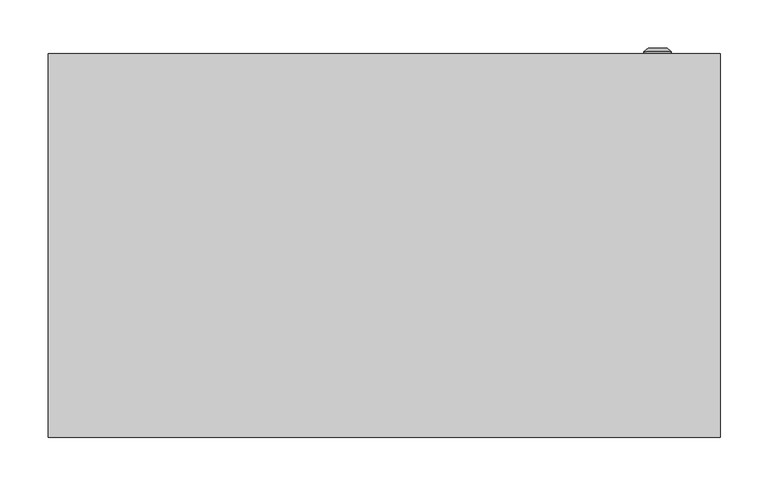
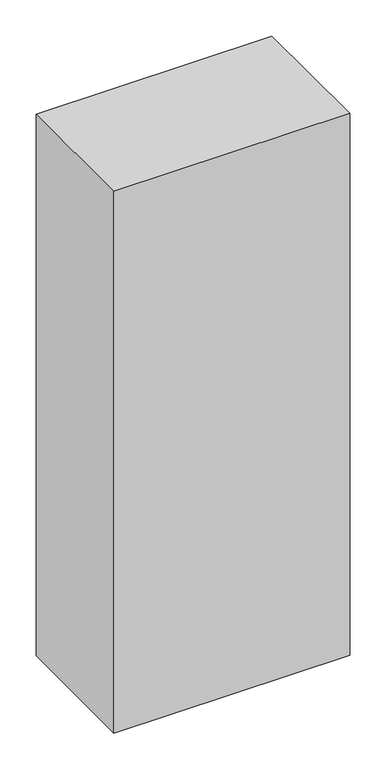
"""IFC4 building model written with IfcOpenShell, lengths in millimetres: proxy geometry, ШРС : ШРС-3_1700х700х400."""

import ifcopenshell
import ifcopenshell.guid

model = None  # the IFC model being written
_history = None  # IfcOwnerHistory: only IFC2X3 demands one
_inside = {}  # id of a spatial element -> (the spatial element, [elements in it])
_under = {}  # id of a project, library or spatial element -> (it, [spatial elements below it])
_declared = {}  # id of a project -> (the project, [libraries it declares])
_typed = {}  # id of a type object -> (the type object, [elements of that type])
_made_of = {}  # id of a material, layer set ... -> (it, [elements and type objects made of it])


def new_model(schema):
    """Start an empty IFC model of exactly this schema.

    Asked for "IFC4X3", IfcOpenShell would pick the latest addendum, in which some entities
    have other attributes; the version numbers below select the first issue.
    IFC2X3 requires an IfcOwnerHistory on every rooted entity: one is made here for all.
    """
    global model, _history
    if schema == "IFC4X3":
        model = ifcopenshell.file(schema_version=(4, 3, 0, 0))
    else:
        model = ifcopenshell.file(schema=schema)
    _inside.clear()
    _under.clear()
    _declared.clear()
    _typed.clear()
    _made_of.clear()
    _history = None
    if model.schema == "IFC2X3":
        org = make("IfcOrganization", Name="unknown")
        user = make(
            "IfcPersonAndOrganization",
            ThePerson=make("IfcPerson", FamilyName="unknown"),
            TheOrganization=org,
        )
        app = make(
            "IfcApplication",
            ApplicationDeveloper=org,
            Version="unknown",
            ApplicationFullName="unknown",
            ApplicationIdentifier="unknown",
        )
        _history = make(
            "IfcOwnerHistory",
            OwningUser=user,
            OwningApplication=app,
            ChangeAction="ADDED",
            CreationDate=0,
        )
    return model


def make(cls, **values):
    """One entity of the class cls with the attributes given. An attribute that is None is left unset."""
    return model.create_entity(
        cls, **{name: value for name, value in values.items() if value is not None}
    )


def rooted(cls, **values):
    """An entity with a GlobalId (a new one), such as an element, a storey or a relation."""
    return make(cls, GlobalId=ifcopenshell.guid.new(), OwnerHistory=_history, **values)


def si_unit(unit_type, name, prefix=None):
    """IfcSIUnit, for example si_unit("LENGTHUNIT", "METRE", prefix="MILLI")."""
    return make("IfcSIUnit", UnitType=unit_type, Prefix=prefix, Name=name)


def assignment(units):
    """IfcUnitAssignment: the units of a project."""
    return None if units is None else make("IfcUnitAssignment", Units=units)


def point(xyz):
    """IfcCartesianPoint."""
    return None if xyz is None else make("IfcCartesianPoint", Coordinates=xyz)


def direction(xyz):
    """IfcDirection."""
    return None if xyz is None else make("IfcDirection", DirectionRatios=xyz)


def frame(location, z_axis=None, x_axis=None):
    """IfcAxis2Placement3D, a coordinate frame: its origin and axes. An axis left out is left unset."""
    return make(
        "IfcAxis2Placement3D",
        Location=point(location),
        Axis=direction(z_axis),
        RefDirection=direction(x_axis),
    )


def origin():
    """The frame at (0, 0, 0) with its axes left unset."""
    return frame((0.0, 0.0, 0.0))


def place(relative_to, where):
    """IfcLocalPlacement: puts the frame where relative to a parent placement (None: the world)."""
    return make(
        "IfcLocalPlacement", PlacementRelTo=relative_to, RelativePlacement=where
    )


def context(
    kind, dimensions, precision=None, world=None, true_north=None, identifier=None
):
    """IfcGeometricRepresentationContext, for example the 3D "Model" context."""
    return make(
        "IfcGeometricRepresentationContext",
        ContextIdentifier=identifier,
        ContextType=kind,
        CoordinateSpaceDimension=dimensions,
        Precision=precision,
        WorldCoordinateSystem=world,
        TrueNorth=true_north,
    )


def project(units=None, contexts=None):
    """IfcProject with its units and contexts."""
    return rooted(
        "IfcProject",
        Name="project",
        RepresentationContexts=contexts,
        UnitsInContext=assignment(units),
    )


def spatial(cls, under=None, at=None, **own):
    """A site, building, storey or space (cls), placed at a placement, below another one or the project."""
    s = rooted(cls, ObjectPlacement=at, **own)
    if under is not None:
        _under.setdefault(under.id(), (under, []))[1].append(s)
    return s


def polyline(points):
    """IfcPolyline through the points."""
    return make("IfcPolyline", Points=[point(p) for p in points])


def circle_curve(where, radius):
    """IfcCircle in the frame where."""
    return make("IfcCircle", Position=where, Radius=radius)


def outline(outer, holes=None, kind="AREA"):
    """IfcArbitraryClosedProfileDef: a profile drawn as a closed curve; with holes, ...WithVoids."""
    if holes is None:
        return make("IfcArbitraryClosedProfileDef", ProfileType=kind, OuterCurve=outer)
    return make(
        "IfcArbitraryProfileDefWithVoids",
        ProfileType=kind,
        OuterCurve=outer,
        InnerCurves=holes,
    )


def extrude(swept, where, along, depth):
    """IfcExtrudedAreaSolid: the profile swept, set in the frame where, extruded along a direction by depth."""
    return make(
        "IfcExtrudedAreaSolid",
        SweptArea=swept,
        Position=where,
        ExtrudedDirection=direction(along),
        Depth=depth,
    )


def faces_of(points, faces, orient=None, outer=None):
    """IfcFace entities. A face is a list of loops; a loop is a list of indices into points, from 0.

    orient and outer hold one flag for each loop. By default every Orientation is true, the
    first loop of a face is its IfcFaceOuterBound and the others are IfcFaceBound.
    """
    made = []
    for i, loops in enumerate(faces):
        bounds = []
        for j, loop in enumerate(loops):
            is_outer = j == 0 if outer is None else outer[i][j]
            bounds.append(
                make(
                    "IfcFaceOuterBound" if is_outer else "IfcFaceBound",
                    Bound=make("IfcPolyLoop", Polygon=[points[k] for k in loop]),
                    Orientation=True if orient is None else orient[i][j],
                )
            )
        made.append(make("IfcFace", Bounds=bounds))
    return made


def faceted_brep(points, faces, orient=None, outer=None, voids=None):
    """IfcFacetedBrep: a solid bounded by flat faces; with voids (closed shells), ...WithVoids."""
    shared = [point(p) for p in points]
    hull = make("IfcClosedShell", CfsFaces=faces_of(shared, faces, orient, outer))
    if voids is None:
        return make("IfcFacetedBrep", Outer=hull)
    return make(
        "IfcFacetedBrepWithVoids",
        Outer=hull,
        Voids=[
            make(cls, CfsFaces=faces_of(shared, fs, o, b)) for cls, fs, o, b in voids
        ],
    )


def shape(context_of_items, identifier, shape_type, items):
    """IfcShapeRepresentation: the items that make up one representation, for example the "Body"."""
    return make(
        "IfcShapeRepresentation",
        ContextOfItems=context_of_items,
        RepresentationIdentifier=identifier,
        RepresentationType=shape_type,
        Items=items,
    )


def source(mapping_origin, context_of_items, identifier, shape_type, items):
    """IfcRepresentationMap: a shape defined once, which mapped items show again and again."""
    return make(
        "IfcRepresentationMap",
        MappingOrigin=mapping_origin,
        MappedRepresentation=shape(context_of_items, identifier, shape_type, items),
    )


def transform(
    local_origin,
    x_axis=None,
    y_axis=None,
    z_axis=None,
    scale=None,
    scale2=None,
    scale3=None,
    uniform=True,
):
    """IfcCartesianTransformationOperator3D, or its non-uniform kind. x_axis, y_axis, z_axis: its Axis1, 2, 3."""
    if uniform:
        return make(
            "IfcCartesianTransformationOperator3D",
            Axis1=direction(x_axis),
            Axis2=direction(y_axis),
            LocalOrigin=point(local_origin),
            Scale=scale,
            Axis3=direction(z_axis),
        )
    return make(
        "IfcCartesianTransformationOperator3DnonUniform",
        Axis1=direction(x_axis),
        Axis2=direction(y_axis),
        LocalOrigin=point(local_origin),
        Scale=scale,
        Axis3=direction(z_axis),
        Scale2=scale2,
        Scale3=scale3,
    )


def mapped(mapping_source, mapping_target):
    """IfcMappedItem: shows the shape of a source again, moved by a transform."""
    return make(
        "IfcMappedItem", MappingSource=mapping_source, MappingTarget=mapping_target
    )


def made_of(thing, what):
    """Note that an element or type object is made of a material, layer set ...; save() writes the relation."""
    if what is not None:
        _made_of.setdefault(what.id(), (what, []))[1].append(thing)
    return thing


def element(
    cls,
    number,
    at=None,
    inside=None,
    cuts=None,
    type_object=None,
    material=None,
    context=None,
    identifier="Body",
    shape_type=None,
    held_by="IfcProductDefinitionShape",
    body=None,
    shapes=None,
    **own,
):
    """One element of the class cls, such as IfcWall. Its Tag is "e" and its number.

    at: its placement. inside: the storey or other place that contains it. cuts: it is an
    opening in that element (IfcRelVoidsElement). A single representation is given by context,
    identifier, shape_type and body (its items); several are given by shapes. held_by: the class
    of the entity that holds the representations. save() writes the other relations.
    """
    e = rooted(cls, Tag="e%d" % number, ObjectPlacement=at, **own)
    if body is not None:
        shapes = [shape(context, identifier, shape_type, body)]
    if shapes is not None:
        e.Representation = make(held_by, Representations=shapes)
    if inside is not None:
        _inside.setdefault(inside.id(), (inside, []))[1].append(e)
    if cuts is not None:
        rooted(
            "IfcRelVoidsElement", RelatingBuildingElement=cuts, RelatedOpeningElement=e
        )
    if type_object is not None:
        _typed.setdefault(type_object.id(), (type_object, []))[1].append(e)
    return made_of(e, material)


def aggregate(whole, parts):
    """IfcRelAggregates: a whole, such as a stair, and the parts it consists of."""
    return rooted("IfcRelAggregates", RelatingObject=whole, RelatedObjects=parts)


def save(model, path):
    """Write the relations noted so far, then the file.

    IfcRelAggregates (storeys below a building ...), IfcRelContainedInSpatialStructure (elements
    in a storey), IfcRelDefinesByType, IfcRelAssociatesMaterial and IfcRelDeclares: one each for
    every whole, place, type object, material and project.
    """
    for whole, parts in _under.values():
        aggregate(whole, parts)
    for where, things in _inside.values():
        rooted(
            "IfcRelContainedInSpatialStructure",
            RelatedElements=things,
            RelatingStructure=where,
        )
    for kind, things in _typed.values():
        rooted("IfcRelDefinesByType", RelatedObjects=things, RelatingType=kind)
    for what, things in _made_of.values():
        rooted("IfcRelAssociatesMaterial", RelatedObjects=things, RelatingMaterial=what)
    for by, libraries in _declared.values():
        rooted("IfcRelDeclares", RelatingContext=by, RelatedDefinitions=libraries)
    model.write(path)


def plane_surface(at):
    """IfcPlane: the flat surface through the origin of the frame at, square to its z axis."""
    return make("IfcPlane", Position=at)


def cylinder_surface(at, radius):
    """IfcCylindricalSurface: all points at the distance radius from the z axis of the frame at."""
    return make("IfcCylindricalSurface", Position=at, Radius=radius)


def revolved_surface(curve, axis_point, axis_direction):
    """IfcSurfaceOfRevolution: the curve turned about the line through axis_point along axis_direction."""
    return make(
        "IfcSurfaceOfRevolution",
        SweptCurve=make("IfcArbitraryOpenProfileDef", ProfileType="CURVE", Curve=curve),
        AxisPosition=make("IfcAxis1Placement", Location=point(axis_point), Axis=direction(axis_direction)),
    )


def advanced_brep(points, edges, surfaces, faces):
    """IfcAdvancedBrep: a solid bounded by faces that lie on surfaces and meet in shared edges.

    An edge is (start, end): straight between two places in points (the first is 0);
    or (start, end, curve); or (start, end, curve, False) where it runs against its curve.
    A face is (place in surfaces, loops), or (place, loops, False) where it looks against
    its surface's normal. A loop lists edges by number (the first is 1), with a minus sign
    where the edge is run from its end to its start. The first loop is the outer one.
    """
    corners = [point(p) for p in points]
    vertices = [make("IfcVertexPoint", VertexGeometry=c) for c in corners]
    made = []
    for start, end, *more in edges:
        made.append(
            make(
                "IfcEdgeCurve",
                EdgeStart=vertices[start],
                EdgeEnd=vertices[end],
                EdgeGeometry=more[0] if more else make("IfcPolyline", Points=[corners[start], corners[end]]),
                SameSense=more[1] if len(more) > 1 else True,
            )
        )
    hull = []
    for where, loops, *sense in faces:
        bounds = []
        for j, loop in enumerate(loops):
            ring = [make("IfcOrientedEdge", EdgeElement=made[abs(k) - 1], Orientation=k > 0) for k in loop]
            bounds.append(
                make(
                    "IfcFaceOuterBound" if j == 0 else "IfcFaceBound",
                    Bound=make("IfcEdgeLoop", EdgeList=ring),
                    Orientation=True,
                )
            )
        hull.append(make("IfcAdvancedFace", Bounds=bounds, FaceSurface=surfaces[where], SameSense=sense[0] if sense else True))
    return make("IfcAdvancedBrep", Outer=make("IfcClosedShell", CfsFaces=hull))


def electrical_equipment_6d69b4e2(model_context):
    return source(origin(), model_context, "Body", "SolidModel", [
        faceted_brep([(336.0, 380.0, 1635.0), (336.0, 380.0, 65.0187804), (-336.0, 380.0, 65.0187804), (-336.0, 380.0, 1635.0), (315.8707865, 380.0, 93.3701084), (315.8707865, 380.0, 1592.9861595), (-313.3426966, 380.0, 1592.9861595), (-313.3426966, 380.0, 93.3701084), (-350.0, 0.0, 1700.0), (-350.0, 400.0, 1700.0), (-350.0, 400.0, 0.0), (-350.0, 0.0, 0.0), (350.0, 400.0, 1700.0), (350.0, 0.0, 1700.0), (350.0, 0.0, 0.0), (350.0, 400.0, 0.0), (-313.3426966, 10.0, 93.3701084), (315.8707865, 10.0, 93.3701084), (-313.3426966, 10.0, 1592.9861595), (315.8707865, 10.0, 1592.9861595), (336.0, 400.0, 1635.0), (-336.0, 400.0, 1635.0), (336.0, 400.0, 65.0187804), (-336.0, 400.0, 65.0187804)], [[[0, 1, 2, 3], [4, 5, 6, 7]], [[8, 9, 10, 11]], [[12, 13, 14, 15]], [[4, 7, 16, 17]], [[7, 6, 18, 16]], [[6, 5, 19, 18]], [[5, 4, 17, 19]], [[12, 9, 8, 13]], [[20, 0, 3, 21]], [[9, 12, 15, 10], [22, 20, 21, 23]], [[14, 13, 8, 11]], [[1, 22, 23, 2]], [[15, 14, 11, 10]], [[20, 22, 1, 0]], [[23, 21, 3, 2]], [[17, 16, 18, 19]]]),
        extrude(outline(polyline([(-305.8707865, 125.9831461), (-265.8707865, 125.9831461), (-265.8707865, 93.1179775), (-268.8707865, 93.1179775), (-268.8707865, 122.9831461), (-302.8707865, 122.9831461), (-302.8707865, 93.1179775), (-305.8707865, 93.1179775), (-305.8707865, 125.9831461)])), frame((0.0, 0.0, 189.6067416), z_axis=(0.0, 0.0, 1.0), x_axis=(1.0, 0.0, 0.0)), (0.0, 0.0, 1.0), 1445.3932584),
        extrude(outline(polyline([(265.8707865, 125.9831461), (305.8707865, 125.9831461), (305.8707865, 93.1179775), (302.8707865, 93.1179775), (302.8707865, 122.9831461), (268.8707865, 122.9831461), (268.8707865, 93.1179775), (265.8707865, 93.1179775), (265.8707865, 125.9831461)])), frame((0.0, 0.0, 189.6067416), z_axis=(0.0, 0.0, 1.0), x_axis=(1.0, 0.0, 0.0)), (0.0, 0.0, 1.0), 1445.3932584),
        extrude(outline(polyline([(-305.8707865, 10.0), (-315.8707865, 10.0), (-315.8707865, 380.0), (-305.8707865, 380.0), (-305.8707865, 10.0)])), frame((0.0, 0.0, 1545.5966059), z_axis=(0.0, 0.0, 1.0), x_axis=(1.0, 0.0, 0.0)), (0.0, 0.0, 1.0), 53.0898876),
        extrude(outline(polyline([(315.8707865, 10.0), (305.8707865, 10.0), (305.8707865, 380.0), (315.8707865, 380.0), (315.8707865, 10.0)])), frame((0.0, 0.0, 1545.5966059), z_axis=(0.0, 0.0, 1.0), x_axis=(1.0, 0.0, 0.0)), (0.0, 0.0, 1.0), 53.0898876),
        extrude(outline(polyline([(-305.8707865, 10.0), (-315.8707865, 10.0), (-315.8707865, 380.0), (-305.8707865, 380.0), (-305.8707865, 10.0)])), frame((0.0, 0.0, 305.5966059), z_axis=(0.0, 0.0, 1.0), x_axis=(1.0, 0.0, 0.0)), (0.0, 0.0, 1.0), 53.0898876),
        extrude(outline(polyline([(315.8707865, 10.0), (305.8707865, 10.0), (305.8707865, 380.0), (315.8707865, 380.0), (315.8707865, 10.0)])), frame((0.0, 0.0, 305.5966059), z_axis=(0.0, 0.0, 1.0), x_axis=(1.0, 0.0, 0.0)), (0.0, 0.0, 1.0), 53.0898876),
        extrude(outline(polyline([(-305.8707865, 10.0), (-315.8707865, 10.0), (-315.8707865, 380.0), (-305.8707865, 380.0), (-305.8707865, 10.0)])), frame((0.0, 0.0, 785.5966059), z_axis=(0.0, 0.0, 1.0), x_axis=(1.0, 0.0, 0.0)), (0.0, 0.0, 1.0), 53.0898876),
        extrude(outline(polyline([(315.8707865, 10.0), (305.8707865, 10.0), (305.8707865, 380.0), (315.8707865, 380.0), (315.8707865, 10.0)])), frame((0.0, 0.0, 785.5966059), z_axis=(0.0, 0.0, 1.0), x_axis=(1.0, 0.0, 0.0)), (0.0, 0.0, 1.0), 53.0898876),
        advanced_brep(
        [(270.669873, 400.0, 365.0), (299.330127, 400.0, 365.0), (285.0, 400.0, 365.0), (270.669873, 402.366592, 365.0), (299.330127, 402.366592, 365.0), (275.0, 406.0, 365.0), (295.0, 406.0, 365.0), (283.1080471, 406.0, 365.0), (286.8919529, 406.0, 365.0), (283.1080471, 404.9822294, 365.0), (286.8919529, 404.9822294, 365.0), (285.0, 404.9822294, 365.0)],
        [
            (0, 1, circle_curve(frame((285.0, 400.0, 365.0), z_axis=(0.0, -1.0, 0.0), x_axis=(1.0, 0.0, 0.0)), 14.330127)),
            (1, 2),
            (2, 0),
            (1, 0, circle_curve(frame((285.0, 400.0, 365.0), z_axis=(0.0, -1.0, 0.0), x_axis=(1.0, 0.0, 0.0)), 14.330127)),
            (3, 4, circle_curve(frame((285.0, 402.366592, 365.0), z_axis=(0.0, -1.0, 0.0), x_axis=(1.0, 0.0, 0.0)), 14.330127)),
            (4, 1),
            (0, 3),
            (4, 3, circle_curve(frame((285.0, 402.366592, 365.0), z_axis=(0.0, -1.0, 0.0), x_axis=(1.0, 0.0, 0.0)), 14.330127)),
            (5, 6, circle_curve(frame((285.0, 406.0, 365.0), z_axis=(0.0, -1.0, 0.0), x_axis=(1.0, 0.0, 0.0)), 10.0)),
            (6, 4),
            (3, 5),
            (6, 5, circle_curve(frame((285.0, 406.0, 365.0), z_axis=(0.0, -1.0, 0.0), x_axis=(1.0, 0.0, 0.0)), 10.0)),
            (7, 8, circle_curve(frame((285.0, 406.0, 365.0), z_axis=(0.0, -1.0, 0.0), x_axis=(1.0, 0.0, 0.0)), 1.8919529)),
            (8, 6),
            (5, 7),
            (8, 7, circle_curve(frame((285.0, 406.0, 365.0), z_axis=(0.0, -1.0, 0.0), x_axis=(1.0, 0.0, 0.0)), 1.8919529)),
            (9, 10, circle_curve(frame((285.0, 404.9822294, 365.0), z_axis=(0.0, -1.0, 0.0), x_axis=(1.0, 0.0, 0.0)), 1.8919529)),
            (10, 8),
            (7, 9),
            (10, 9, circle_curve(frame((285.0, 404.9822294, 365.0), z_axis=(0.0, -1.0, 0.0), x_axis=(1.0, 0.0, 0.0)), 1.8919529)),
            (11, 10),
            (9, 11),
        ],
        [
            plane_surface(frame((285.0, 400.0, 365.0), z_axis=(0.0, -1.0, 0.0), x_axis=(1.0, 0.0, 0.0))),
            cylinder_surface(frame((285.0, 413.1348851, 365.0), z_axis=(0.0, 1.0, 0.0), x_axis=(1.0, 0.0, 0.0)), 14.330127),
            revolved_surface(polyline([(299.330127, 402.366592, 365.0), (295.0, 406.0, 365.0)]), (285.0, 413.1348851, 365.0), (0.0, 1.0, 0.0)),
            plane_surface(frame((285.0, 406.0, 365.0), z_axis=(0.0, 1.0, 0.0), x_axis=(1.0, 0.0, 0.0))),
            revolved_surface(polyline([(286.8919529, 406.0, 365.0), (286.8919529, 404.9822294, 365.0)]), (285.0, 413.1348851, 365.0), (0.0, 1.0, 0.0)),
            plane_surface(frame((285.0, 404.9822294, 365.0), z_axis=(0.0, 1.0, 0.0), x_axis=(1.0, 0.0, 0.0))),
        ],
        [
            (0, [[1, 2, 3]]),
            (0, [[4, -3, -2]]),
            (1, [[5, 6, -1, 7]]),
            (1, [[8, -7, -4, -6]]),
            (2, [[9, 10, -5, 11]]),
            (2, [[12, -11, -8, -10]]),
            (3, [[13, 14, -9, 15]]),
            (3, [[16, -15, -12, -14]]),
            (4, [[17, 18, -13, 19]]),
            (4, [[20, -19, -16, -18]]),
            (5, [[21, -17, 22]]),
            (5, [[-22, -20, -21]]),
        ],
    ),
        advanced_brep(
        [(270.669873, 400.0, 1335.0), (299.330127, 400.0, 1335.0), (285.0, 400.0, 1335.0), (270.669873, 402.366592, 1335.0), (299.330127, 402.366592, 1335.0), (275.0, 406.0, 1335.0), (295.0, 406.0, 1335.0), (283.1080471, 406.0, 1335.0), (286.8919529, 406.0, 1335.0), (283.1080471, 404.9822294, 1335.0), (286.8919529, 404.9822294, 1335.0), (285.0, 404.9822294, 1335.0)],
        [
            (0, 1, circle_curve(frame((285.0, 400.0, 1335.0), z_axis=(0.0, -1.0, 0.0), x_axis=(1.0, 0.0, 0.0)), 14.330127)),
            (1, 2),
            (2, 0),
            (1, 0, circle_curve(frame((285.0, 400.0, 1335.0), z_axis=(0.0, -1.0, 0.0), x_axis=(1.0, 0.0, 0.0)), 14.330127)),
            (3, 4, circle_curve(frame((285.0, 402.366592, 1335.0), z_axis=(0.0, -1.0, 0.0), x_axis=(1.0, 0.0, 0.0)), 14.330127)),
            (4, 1),
            (0, 3),
            (4, 3, circle_curve(frame((285.0, 402.366592, 1335.0), z_axis=(0.0, -1.0, 0.0), x_axis=(1.0, 0.0, 0.0)), 14.330127)),
            (5, 6, circle_curve(frame((285.0, 406.0, 1335.0), z_axis=(0.0, -1.0, 0.0), x_axis=(1.0, 0.0, 0.0)), 10.0)),
            (6, 4),
            (3, 5),
            (6, 5, circle_curve(frame((285.0, 406.0, 1335.0), z_axis=(0.0, -1.0, 0.0), x_axis=(1.0, 0.0, 0.0)), 10.0)),
            (7, 8, circle_curve(frame((285.0, 406.0, 1335.0), z_axis=(0.0, -1.0, 0.0), x_axis=(1.0, 0.0, 0.0)), 1.8919529)),
            (8, 6),
            (5, 7),
            (8, 7, circle_curve(frame((285.0, 406.0, 1335.0), z_axis=(0.0, -1.0, 0.0), x_axis=(1.0, 0.0, 0.0)), 1.8919529)),
            (9, 10, circle_curve(frame((285.0, 404.9822294, 1335.0), z_axis=(0.0, -1.0, 0.0), x_axis=(1.0, 0.0, 0.0)), 1.8919529)),
            (10, 8),
            (7, 9),
            (10, 9, circle_curve(frame((285.0, 404.9822294, 1335.0), z_axis=(0.0, -1.0, 0.0), x_axis=(1.0, 0.0, 0.0)), 1.8919529)),
            (11, 10),
            (9, 11),
        ],
        [
            plane_surface(frame((285.0, 400.0, 1335.0), z_axis=(0.0, -1.0, 0.0), x_axis=(1.0, 0.0, 0.0))),
            cylinder_surface(frame((285.0, 413.1348851, 1335.0), z_axis=(0.0, 1.0, 0.0), x_axis=(1.0, 0.0, 0.0)), 14.330127),
            revolved_surface(polyline([(299.330127, 402.366592, 1335.0), (295.0, 406.0, 1335.0)]), (285.0, 413.1348851, 1335.0), (0.0, 1.0, 0.0)),
            plane_surface(frame((285.0, 406.0, 1335.0), z_axis=(0.0, 1.0, 0.0), x_axis=(1.0, 0.0, 0.0))),
            revolved_surface(polyline([(286.8919529, 406.0, 1335.0), (286.8919529, 404.9822294, 1335.0)]), (285.0, 413.1348851, 1335.0), (0.0, 1.0, 0.0)),
            plane_surface(frame((285.0, 404.9822294, 1335.0), z_axis=(0.0, 1.0, 0.0), x_axis=(1.0, 0.0, 0.0))),
        ],
        [
            (0, [[1, 2, 3]]),
            (0, [[4, -3, -2]]),
            (1, [[5, 6, -1, 7]]),
            (1, [[8, -7, -4, -6]]),
            (2, [[9, 10, -5, 11]]),
            (2, [[12, -11, -8, -10]]),
            (3, [[13, 14, -9, 15]]),
            (3, [[16, -15, -12, -14]]),
            (4, [[17, 18, -13, 19]]),
            (4, [[20, -19, -16, -18]]),
            (5, [[21, -17, 22]]),
            (5, [[-22, -20, -21]]),
        ],
    ),
        extrude(outline(polyline([(335.0, 380.0), (-335.0, 380.0), (-335.0, 400.0), (335.0, 400.0), (335.0, 380.0)])), frame((0.0, 0.0, 65.0187804), z_axis=(0.0, 0.0, 1.0), x_axis=(1.0, 0.0, 0.0)), (0.0, 0.0, 1.0), 1569.9812196),
    ])


if __name__ == "__main__":
    model = new_model("IFC4")
    model_context = context("Model", 3, world=origin())
    ifc_project = project(units=[si_unit("LENGTHUNIT", "METRE", prefix="MILLI")], contexts=[model_context])
    site = spatial("IfcSite", under=ifc_project)
    building = spatial("IfcBuilding", under=site)
    placement = place(None, origin())
    electrical_equipment_shape = electrical_equipment_6d69b4e2(model_context)
    element("IfcBuildingElementProxy", 1, Name="ШРС : ШРС-3_1700х700х400", ObjectType="ШРС : ШРС-3_1700х700х400", at=placement, inside=building, context=model_context, shape_type="MappedRepresentation", body=[
        mapped(electrical_equipment_shape, transform((0.0, 0.0, 0.0), x_axis=(1.0, 0.0, 0.0), y_axis=(0.0, 1.0, 0.0), z_axis=(0.0, 0.0, 1.0))),
    ])
    save(model, "model.ifc")
